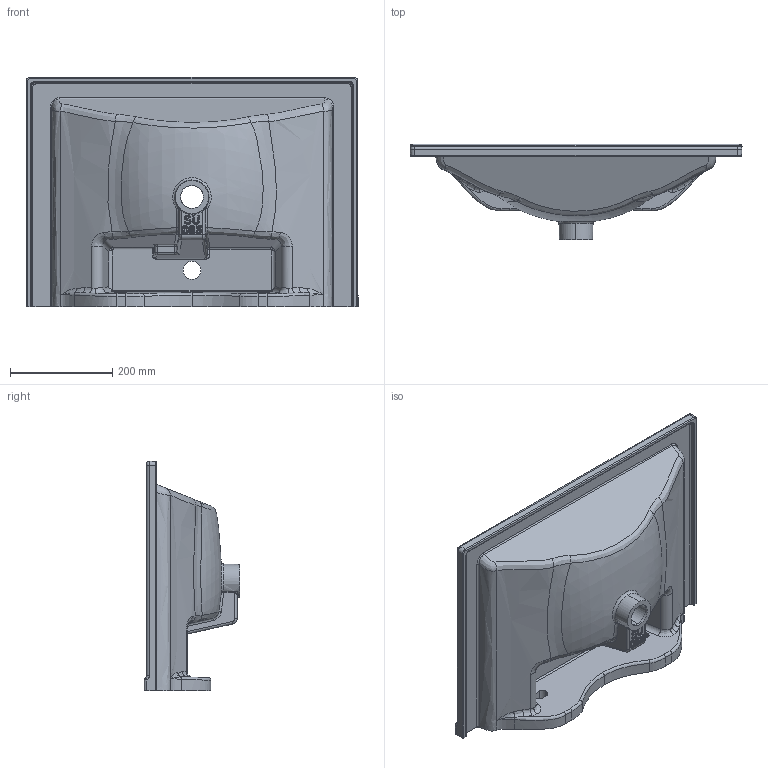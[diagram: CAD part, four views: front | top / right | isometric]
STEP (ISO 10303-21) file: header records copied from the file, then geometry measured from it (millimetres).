
FILE_DESCRIPTION (( 'STEP AP203' ), '1' );
FILE_NAME ('SU065 Model.STEP', '2022-04-06T10:06:22', ( '' ), ( '' ), 'SwSTEP 2.0', 'SolidWorks 2021', '' );
FILE_SCHEMA (( 'CONFIG_CONTROL_DESIGN' ));
Products named in the file (1): SU065  Model
Bounding box: 649.98 x 187.59 x 449.72 mm (x, y, z)
Volume: 9176396.8 mm3; surface area: 908762.5 mm2
Topology: 2 solids, 2 shells, 467 faces, 1129 edges, 648 vertices
Faces by surface type: bspline 250, cylinder 113, plane 74, sphere 28, torus 2
Entity records: 49237 total; most frequent: CARTESIAN_POINT 40297, ORIENTED_EDGE 2202, DIRECTION 1301, EDGE_CURVE 1101, VERTEX_POINT 646, EDGE_LOOP 485, AXIS2_PLACEMENT_3D 476, FACE_OUTER_BOUND 467
